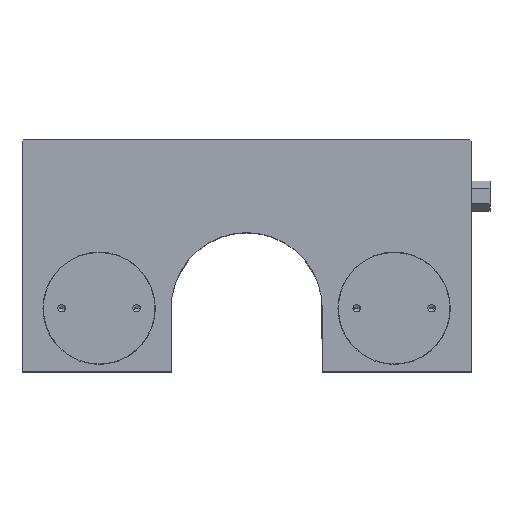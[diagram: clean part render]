
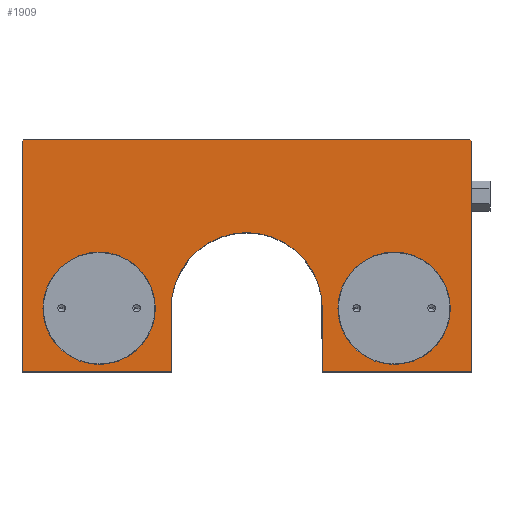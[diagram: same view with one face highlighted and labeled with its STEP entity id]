
A CAD part, top view. The second image highlights one B-rep face of the part: STEP entity #1909.
In plain terms, the highlighted planar face has unit normal (0, 0, 1).
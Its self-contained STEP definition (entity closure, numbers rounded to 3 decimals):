
#933 = EDGE_CURVE( '', #1043, #1127, #2679, .T. );
#949 = EDGE_CURVE( '', #2069, #1215, #2699, .T. );
#1043 = VERTEX_POINT( '', #2807 );
#1127 = VERTEX_POINT( '', #2897 );
#1131 = EDGE_CURVE( '', #2273, #1789, #2901, .T. );
#1205 = EDGE_CURVE( '', #1127, #2411, #2980, .T. );
#1215 = VERTEX_POINT( '', #2991 );
#1351 = EDGE_CURVE( '', #1707, #2343, #3143, .T. );
#1389 = VERTEX_POINT( '', #3183 );
#1535 = EDGE_CURVE( '', #2411, #2069, #3345, .T. );
#1667 = EDGE_CURVE( '', #1389, #2557, #3487, .T. );
#1707 = VERTEX_POINT( '', #3532 );
#1783 = EDGE_CURVE( '', #1873, #1043, #3623, .T. );
#1789 = VERTEX_POINT( '', #3629 );
#1873 = VERTEX_POINT( '', #3723 );
#1899 = EDGE_CURVE( '', #2557, #2079, #3757, .T. );
#1909 = ADVANCED_FACE( '', ( #3767, #3768, #3769 ), #3770, .F. );
#1923 = VERTEX_POINT( '', #3786 );
#1995 = EDGE_CURVE( '', #1923, #1873, #3871, .T. );
#2069 = VERTEX_POINT( '', #3951 );
#2079 = VERTEX_POINT( '', #3961 );
#2127 = EDGE_CURVE( '', #1789, #2273, #4012, .T. );
#2273 = VERTEX_POINT( '', #4175 );
#2343 = VERTEX_POINT( '', #4253 );
#2411 = VERTEX_POINT( '', #4330 );
#2423 = EDGE_CURVE( '', #2079, #1923, #4344, .T. );
#2427 = EDGE_CURVE( '', #1215, #1389, #4349, .T. );
#2517 = EDGE_CURVE( '', #2343, #1707, #4459, .T. );
#2557 = VERTEX_POINT( '', #4502 );
#2679 = CIRCLE( '', #4634, 20.2 );
#2699 = LINE( '', #4660, #4661 );
#2807 = CARTESIAN_POINT( '', ( 20.2, 17., 24.5 ) );
#2897 = CARTESIAN_POINT( '', ( -20.2, 17., 24.5 ) );
#2901 = CIRCLE( '', #4928, 15. );
#2980 = LINE( '', #5040, #5041 );
#2991 = CARTESIAN_POINT( '', ( -60., 61.6, 24.5 ) );
#3143 = CIRCLE( '', #5318, 15. );
#3183 = CARTESIAN_POINT( '', ( -59.6, 62., 24.5 ) );
#3345 = LINE( '', #5631, #5632 );
#3487 = LINE( '', #5835, #5836 );
#3532 = CARTESIAN_POINT( '', ( -54.4, 17., 24.5 ) );
#3623 = LINE( '', #6064, #6065 );
#3629 = CARTESIAN_POINT( '', ( 54.4, 17., 24.5 ) );
#3723 = CARTESIAN_POINT( '', ( 20.2, 0., 24.5 ) );
#3757 = LINE( '', #6248, #6249 );
#3767 = FACE_BOUND( '', #6261, .T. );
#3768 = FACE_BOUND( '', #6262, .T. );
#3769 = FACE_OUTER_BOUND( '', #6263, .T. );
#3770 = PLANE( '', #6264 );
#3786 = CARTESIAN_POINT( '', ( 60., 0., 24.5 ) );
#3871 = LINE( '', #6424, #6425 );
#3951 = CARTESIAN_POINT( '', ( -60., 0., 24.5 ) );
#3961 = CARTESIAN_POINT( '', ( 60., 61.6, 24.5 ) );
#4012 = CIRCLE( '', #6625, 15. );
#4175 = CARTESIAN_POINT( '', ( 24.4, 17., 24.5 ) );
#4253 = CARTESIAN_POINT( '', ( -24.4, 17., 24.5 ) );
#4330 = CARTESIAN_POINT( '', ( -20.2, 0., 24.5 ) );
#4344 = LINE( '', #7096, #7097 );
#4349 = LINE( '', #7103, #7104 );
#4459 = CIRCLE( '', #7242, 15. );
#4502 = CARTESIAN_POINT( '', ( 59.6, 62., 24.5 ) );
#4634 = AXIS2_PLACEMENT_3D( '', #7444, #7445, #7446 );
#4660 = CARTESIAN_POINT( '', ( -60., 0., 24.5 ) );
#4661 = VECTOR( '', #7477, 1. );
#4928 = AXIS2_PLACEMENT_3D( '', #7699, #7700, #7701 );
#5040 = CARTESIAN_POINT( '', ( -20.2, 17., 24.5 ) );
#5041 = VECTOR( '', #7770, 1. );
#5318 = AXIS2_PLACEMENT_3D( '', #7946, #7947, #7948 );
#5631 = CARTESIAN_POINT( '', ( -20.2, 0., 24.5 ) );
#5632 = VECTOR( '', #8166, 1. );
#5835 = CARTESIAN_POINT( '', ( -59.6, 62., 24.5 ) );
#5836 = VECTOR( '', #8295, 1. );
#6064 = CARTESIAN_POINT( '', ( 20.2, 0., 24.5 ) );
#6065 = VECTOR( '', #8482, 1. );
#6248 = CARTESIAN_POINT( '', ( 59.6, 62., 24.5 ) );
#6249 = VECTOR( '', #8642, 1. );
#6261 = EDGE_LOOP( '', ( #8645, #8646 ) );
#6262 = EDGE_LOOP( '', ( #8647, #8648 ) );
#6263 = EDGE_LOOP( '', ( #8649, #8650, #8651, #8652, #8653, #8654, #8655, #8656, #8657, #8658 ) );
#6264 = AXIS2_PLACEMENT_3D( '', #8659, #8660, #8661 );
#6424 = CARTESIAN_POINT( '', ( 60., 0., 24.5 ) );
#6425 = VECTOR( '', #8812, 1. );
#6625 = AXIS2_PLACEMENT_3D( '', #8928, #8929, #8930 );
#7096 = CARTESIAN_POINT( '', ( 60., 61.6, 24.5 ) );
#7097 = VECTOR( '', #9318, 1. );
#7103 = CARTESIAN_POINT( '', ( -60., 61.6, 24.5 ) );
#7104 = VECTOR( '', #9327, 1. );
#7242 = AXIS2_PLACEMENT_3D( '', #9488, #9489, #9490 );
#7444 = CARTESIAN_POINT( '', ( 0., 17., 24.5 ) );
#7445 = DIRECTION( '', ( 0., 0., 1. ) );
#7446 = DIRECTION( '', ( 1., 0., 0. ) );
#7477 = DIRECTION( '', ( 0., 1., 0. ) );
#7699 = CARTESIAN_POINT( '', ( 39.4, 17., 24.5 ) );
#7700 = DIRECTION( '', ( 0., 0., -1. ) );
#7701 = DIRECTION( '', ( -1., 0., 0. ) );
#7770 = DIRECTION( '', ( 0., -1., 0. ) );
#7946 = CARTESIAN_POINT( '', ( -39.4, 17., 24.5 ) );
#7947 = DIRECTION( '', ( 0., 0., -1. ) );
#7948 = DIRECTION( '', ( -1., 0., 0. ) );
#8166 = DIRECTION( '', ( -1., 0., 0. ) );
#8295 = DIRECTION( '', ( 1., 0., 0. ) );
#8482 = DIRECTION( '', ( 0., 1., 0. ) );
#8642 = DIRECTION( '', ( 0.707, -0.707, 0. ) );
#8645 = ORIENTED_EDGE( '', *, *, #2517, .T. );
#8646 = ORIENTED_EDGE( '', *, *, #1351, .T. );
#8647 = ORIENTED_EDGE( '', *, *, #2127, .T. );
#8648 = ORIENTED_EDGE( '', *, *, #1131, .T. );
#8649 = ORIENTED_EDGE( '', *, *, #1995, .F. );
#8650 = ORIENTED_EDGE( '', *, *, #2423, .F. );
#8651 = ORIENTED_EDGE( '', *, *, #1899, .F. );
#8652 = ORIENTED_EDGE( '', *, *, #1667, .F. );
#8653 = ORIENTED_EDGE( '', *, *, #2427, .F. );
#8654 = ORIENTED_EDGE( '', *, *, #949, .F. );
#8655 = ORIENTED_EDGE( '', *, *, #1535, .F. );
#8656 = ORIENTED_EDGE( '', *, *, #1205, .F. );
#8657 = ORIENTED_EDGE( '', *, *, #933, .F. );
#8658 = ORIENTED_EDGE( '', *, *, #1783, .F. );
#8659 = CARTESIAN_POINT( '', ( 0., 0., 24.5 ) );
#8660 = DIRECTION( '', ( 0., 0., -1. ) );
#8661 = DIRECTION( '', ( -1., 0., 0. ) );
#8812 = DIRECTION( '', ( -1., 0., 0. ) );
#8928 = CARTESIAN_POINT( '', ( 39.4, 17., 24.5 ) );
#8929 = DIRECTION( '', ( 0., 0., -1. ) );
#8930 = DIRECTION( '', ( -1., 0., 0. ) );
#9318 = DIRECTION( '', ( 0., -1., 0. ) );
#9327 = DIRECTION( '', ( 0.707, 0.707, 0. ) );
#9488 = CARTESIAN_POINT( '', ( -39.4, 17., 24.5 ) );
#9489 = DIRECTION( '', ( 0., 0., -1. ) );
#9490 = DIRECTION( '', ( -1., 0., 0. ) );
